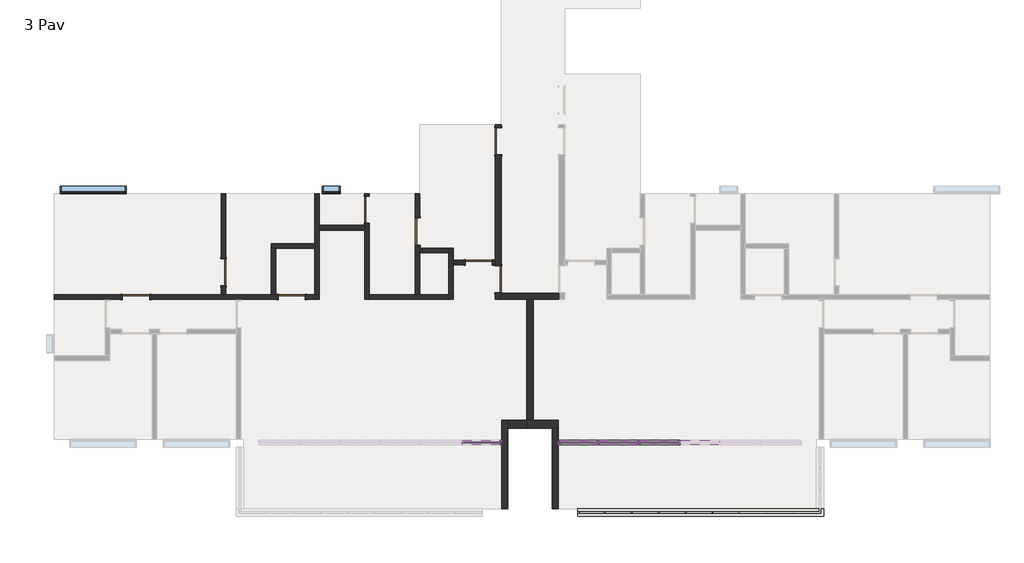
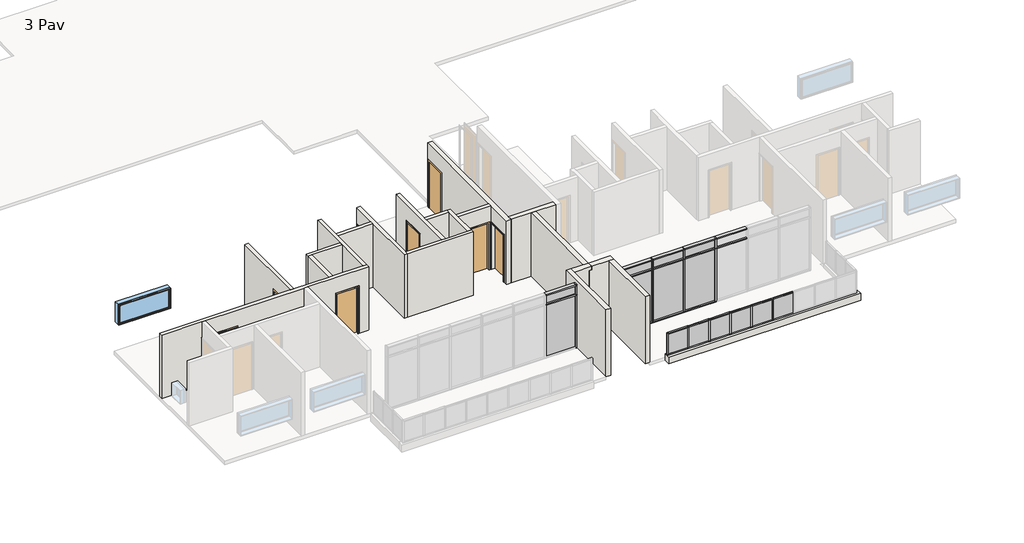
# One storey, part 2 of 6: 40 members, 20 walls, 14 plates, 8 doors, 2 windows.
"""IFC4 building model written with IfcOpenShell, lengths in millimetres."""

from ifc_helpers import new_model, si_unit, frame, origin, place, context, project, spatial, polyline, outline, extrude, faceted_brep, transform, mapped, element, save
from components import door_90_x_210_2c83007d, door_90_x_210_ee935524, door_90_x_210_565370b3, montante_retangular_50_mm_quadrado_4acded50, montante_retangular_50_mm_quadrado_237d7072, montante_retangular_50_mm_quadrado_84e40a56, montante_retangular_50_mm_quadrado_3d152aff, montante_retangular_50_x_150_mm_6217edde, montante_retangular_50_x_150_mm_a22249d7, montante_retangular_50_x_150_mm_6225e4e3, montante_retangular_50_x_150_mm_1ca2bba2, montante_retangular_50_x_150_mm_6abf4531, montante_retangular_50_x_150_mm_662c37b1, montante_retangular_50_x_150_mm_567eccab, montante_retangular_50_x_150_mm_0a8c3443, painel_do_sistema_57ceaf50, painel_do_sistema_ab0ed719, painel_do_sistema_1ecb5f42, painel_do_sistema_49db1829, painel_do_sistema_5ea5287b, painel_do_sistema_7730abee, window_0610_x_0610_mm_da1d4716, window_220_x_90_cea65aae

model = new_model("IFC4")

# Units and contexts
model_context = context("Model", 3, world=origin())
ifc_project = project(units=[si_unit("LENGTHUNIT", "METRE", prefix="MILLI")], contexts=[model_context])

# Site, building, storey
site = spatial("IfcSite", under=ifc_project)
building = spatial("IfcBuilding", under=site)
storey = spatial("IfcBuildingStorey", under=building, Name="3 Pav", Elevation=9000.0)

# Doors
placement = place(None, origin())
door_90_x_210_shape = door_90_x_210_2c83007d(model_context)
element("IfcDoor", 1, ObjectType="M_Descarga simples : 90 x 210", at=placement, inside=storey, context=model_context, shape_type="MappedRepresentation", body=[
    mapped(door_90_x_210_shape, transform((-2076.2265742, -2546.3385375, 9000.0), x_axis=(0.0, 1.0, 0.0), y_axis=(-1.0, 0.0, 0.0), z_axis=(0.0, 0.0, 1.0))),
])
element("IfcDoor", 2, ObjectType="M_Descarga simples : 90 x 210", at=placement, inside=storey, context=model_context, shape_type="MappedRepresentation", body=[
    mapped(door_90_x_210_shape, transform((-2076.2265742, -7125.9292512, 9000.0), x_axis=(0.0, -1.0, 0.0), y_axis=(1.0, 0.0, 0.0), z_axis=(0.0, 0.0, 1.0))),
])
door_90_x_210_2_shape = door_90_x_210_ee935524(model_context)
element("IfcDoor", 3, ObjectType="M_Descarga simples : 90 x 210", at=placement, inside=storey, context=model_context, shape_type="MappedRepresentation", body=[
    mapped(door_90_x_210_2_shape, transform((-2726.2265742, -6571.3385375, 9000.0), x_axis=(1.0, 0.0, 0.0), y_axis=(0.0, 1.0, 0.0), z_axis=(0.0, 0.0, 1.0))),
])
element("IfcDoor", 4, ObjectType="M_Descarga simples : 90 x 210", at=placement, inside=storey, context=model_context, shape_type="MappedRepresentation", body=[
    mapped(door_90_x_210_2_shape, transform((-4751.2265742, -5536.3385375, 9000.0), x_axis=(0.0, 1.0, 0.0), y_axis=(-1.0, 0.0, 0.0), z_axis=(0.0, 0.0, 1.0))),
])
element("IfcDoor", 5, ObjectType="M_Descarga simples : 90 x 210", at=placement, inside=storey, context=model_context, shape_type="MappedRepresentation", body=[
    mapped(door_90_x_210_2_shape, transform((-6441.2265742, -4811.3385375, 9000.0), x_axis=(0.0, 1.0, 0.0), y_axis=(-1.0, 0.0, 0.0), z_axis=(0.0, 0.0, 1.0))),
])
element("IfcDoor", 6, ObjectType="M_Descarga simples : 90 x 210", at=placement, inside=storey, context=model_context, shape_type="MappedRepresentation", body=[
    mapped(door_90_x_210_2_shape, transform((-11191.2265742, -6886.3385375, 9000.0), x_axis=(0.0, -1.0, 0.0), y_axis=(1.0, 0.0, 0.0), z_axis=(0.0, 0.0, 1.0))),
])
door_90_x_210_3_shape = door_90_x_210_565370b3(model_context)
element("IfcDoor", 7, ObjectType="M_Descarga simples : 90 x 210", at=placement, inside=storey, context=model_context, shape_type="MappedRepresentation", body=[
    mapped(door_90_x_210_3_shape, transform((-14096.2265742, -7711.3385375, 9000.0), x_axis=(-1.0, 0.0, 0.0), y_axis=(0.0, -1.0, 0.0), z_axis=(0.0, 0.0, 1.0))),
])
element("IfcDoor", 8, ObjectType="M_Descarga simples : 90 x 210", at=placement, inside=storey, context=model_context, shape_type="MappedRepresentation", body=[
    mapped(door_90_x_210_3_shape, transform((-8936.2265742, -7711.3385375, 9000.0), x_axis=(-1.0, 0.0, 0.0), y_axis=(0.0, -1.0, 0.0), z_axis=(0.0, 0.0, 1.0))),
])

# Members
montante_retangular_50_mm_quadrado_shape = montante_retangular_50_mm_quadrado_4acded50(model_context)
element("IfcMember", 9, ObjectType="Montante retangular : 50 mm Quadrado", at=placement, inside=storey, context=model_context, shape_type="MappedRepresentation", body=[
    mapped(montante_retangular_50_mm_quadrado_shape, transform((1428.7734258, -14856.3385375, 10150.0), x_axis=(0.0, 0.0, 1.0), y_axis=(0.0, -1.0, 0.0), z_axis=(1.0, 0.0, 0.0))),
])
montante_retangular_50_mm_quadrado_2_shape = montante_retangular_50_mm_quadrado_237d7072(model_context)
element("IfcMember", 10, ObjectType="Montante retangular : 50 mm Quadrado", at=placement, inside=storey, context=model_context, shape_type="MappedRepresentation", body=[
    mapped(montante_retangular_50_mm_quadrado_2_shape, transform((2323.7734258, -14856.3385375, 10150.0), x_axis=(0.0, 0.0, 1.0), y_axis=(0.0, -1.0, 0.0), z_axis=(1.0, 0.0, 0.0))),
])
element("IfcMember", 11, ObjectType="Montante retangular : 50 mm Quadrado", at=placement, inside=storey, context=model_context, shape_type="MappedRepresentation", body=[
    mapped(montante_retangular_50_mm_quadrado_2_shape, transform((3218.7734258, -14856.3385375, 10150.0), x_axis=(0.0, 0.0, 1.0), y_axis=(0.0, -1.0, 0.0), z_axis=(1.0, 0.0, 0.0))),
])
element("IfcMember", 12, ObjectType="Montante retangular : 50 mm Quadrado", at=placement, inside=storey, context=model_context, shape_type="MappedRepresentation", body=[
    mapped(montante_retangular_50_mm_quadrado_2_shape, transform((4113.7734258, -14856.3385375, 10150.0), x_axis=(0.0, 0.0, 1.0), y_axis=(0.0, -1.0, 0.0), z_axis=(1.0, 0.0, 0.0))),
])
element("IfcMember", 13, ObjectType="Montante retangular : 50 mm Quadrado", at=placement, inside=storey, context=model_context, shape_type="MappedRepresentation", body=[
    mapped(montante_retangular_50_mm_quadrado_2_shape, transform((5008.7734258, -14856.3385375, 10150.0), x_axis=(0.0, 0.0, 1.0), y_axis=(0.0, -1.0, 0.0), z_axis=(1.0, 0.0, 0.0))),
])
element("IfcMember", 14, ObjectType="Montante retangular : 50 mm Quadrado", at=placement, inside=storey, context=model_context, shape_type="MappedRepresentation", body=[
    mapped(montante_retangular_50_mm_quadrado_2_shape, transform((5903.7734258, -14856.3385375, 10150.0), x_axis=(0.0, 0.0, 1.0), y_axis=(0.0, -1.0, 0.0), z_axis=(1.0, 0.0, 0.0))),
])
element("IfcMember", 15, ObjectType="Montante retangular : 50 mm Quadrado", at=placement, inside=storey, context=model_context, shape_type="MappedRepresentation", body=[
    mapped(montante_retangular_50_mm_quadrado_shape, transform((608.7734258, -14856.3385375, 9150.0), x_axis=(0.0, 0.0, -1.0), y_axis=(0.0, -1.0, 0.0), z_axis=(-1.0, 0.0, 0.0))),
])
element("IfcMember", 16, ObjectType="Montante retangular : 50 mm Quadrado", at=placement, inside=storey, context=model_context, shape_type="MappedRepresentation", body=[
    mapped(montante_retangular_50_mm_quadrado_2_shape, transform((1478.7734258, -14856.3385375, 9150.0), x_axis=(0.0, 0.0, -1.0), y_axis=(0.0, -1.0, 0.0), z_axis=(-1.0, 0.0, 0.0))),
])
element("IfcMember", 17, ObjectType="Montante retangular : 50 mm Quadrado", at=placement, inside=storey, context=model_context, shape_type="MappedRepresentation", body=[
    mapped(montante_retangular_50_mm_quadrado_2_shape, transform((2373.7734258, -14856.3385375, 9150.0), x_axis=(0.0, 0.0, -1.0), y_axis=(0.0, -1.0, 0.0), z_axis=(-1.0, 0.0, 0.0))),
])
element("IfcMember", 18, ObjectType="Montante retangular : 50 mm Quadrado", at=placement, inside=storey, context=model_context, shape_type="MappedRepresentation", body=[
    mapped(montante_retangular_50_mm_quadrado_2_shape, transform((3268.7734258, -14856.3385375, 9150.0), x_axis=(0.0, 0.0, -1.0), y_axis=(0.0, -1.0, 0.0), z_axis=(-1.0, 0.0, 0.0))),
])
element("IfcMember", 19, ObjectType="Montante retangular : 50 mm Quadrado", at=placement, inside=storey, context=model_context, shape_type="MappedRepresentation", body=[
    mapped(montante_retangular_50_mm_quadrado_2_shape, transform((4163.7734258, -14856.3385375, 9150.0), x_axis=(0.0, 0.0, -1.0), y_axis=(0.0, -1.0, 0.0), z_axis=(-1.0, 0.0, 0.0))),
])
element("IfcMember", 20, ObjectType="Montante retangular : 50 mm Quadrado", at=placement, inside=storey, context=model_context, shape_type="MappedRepresentation", body=[
    mapped(montante_retangular_50_mm_quadrado_2_shape, transform((5058.7734258, -14856.3385375, 9150.0), x_axis=(0.0, 0.0, -1.0), y_axis=(0.0, -1.0, 0.0), z_axis=(-1.0, 0.0, 0.0))),
])
montante_retangular_50_mm_quadrado_3_shape = montante_retangular_50_mm_quadrado_84e40a56(model_context)
element("IfcMember", 21, ObjectType="Montante retangular : 50 mm Quadrado", at=placement, inside=storey, context=model_context, shape_type="MappedRepresentation", body=[
    mapped(montante_retangular_50_mm_quadrado_3_shape, transform((1453.7734258, -14856.3385375, 9150.0), x_axis=(1.0, 0.0, 0.0), y_axis=(0.0, -1.0, 0.0), z_axis=(0.0, 0.0, -1.0))),
])
element("IfcMember", 22, ObjectType="Montante retangular : 50 mm Quadrado", at=placement, inside=storey, context=model_context, shape_type="MappedRepresentation", body=[
    mapped(montante_retangular_50_mm_quadrado_3_shape, transform((2348.7734258, -14856.3385375, 9150.0), x_axis=(1.0, 0.0, 0.0), y_axis=(0.0, -1.0, 0.0), z_axis=(0.0, 0.0, -1.0))),
])
element("IfcMember", 23, ObjectType="Montante retangular : 50 mm Quadrado", at=placement, inside=storey, context=model_context, shape_type="MappedRepresentation", body=[
    mapped(montante_retangular_50_mm_quadrado_3_shape, transform((3243.7734258, -14856.3385375, 9150.0), x_axis=(1.0, 0.0, 0.0), y_axis=(0.0, -1.0, 0.0), z_axis=(0.0, 0.0, -1.0))),
])
element("IfcMember", 24, ObjectType="Montante retangular : 50 mm Quadrado", at=placement, inside=storey, context=model_context, shape_type="MappedRepresentation", body=[
    mapped(montante_retangular_50_mm_quadrado_3_shape, transform((4138.7734258, -14856.3385375, 9150.0), x_axis=(1.0, 0.0, 0.0), y_axis=(0.0, -1.0, 0.0), z_axis=(0.0, 0.0, -1.0))),
])
montante_retangular_50_mm_quadrado_4_shape = montante_retangular_50_mm_quadrado_3d152aff(model_context)
element("IfcMember", 25, ObjectType="Montante retangular : 50 mm Quadrado", at=placement, inside=storey, context=model_context, shape_type="MappedRepresentation", body=[
    mapped(montante_retangular_50_mm_quadrado_4_shape, transform((558.7734258, -14856.3385375, 10150.0), x_axis=(-1.0, 0.0, 0.0), y_axis=(0.0, -1.0, 0.0), z_axis=(0.0, 0.0, 1.0))),
])
montante_retangular_50_x_150_mm_shape = montante_retangular_50_x_150_mm_6217edde(model_context)
element("IfcMember", 26, ObjectType="Montante retangular : 50 x 150 mm", at=placement, inside=storey, context=model_context, shape_type="MappedRepresentation", body=[
    mapped(montante_retangular_50_x_150_mm_shape, transform((-2011.2265742, -12536.3385375, 11850.0), x_axis=(0.0, 0.0, 1.0), y_axis=(0.0, -1.0, 0.0), z_axis=(1.0, 0.0, 0.0))),
])
element("IfcMember", 27, ObjectType="Montante retangular : 50 x 150 mm", at=placement, inside=storey, context=model_context, shape_type="MappedRepresentation", body=[
    mapped(montante_retangular_50_x_150_mm_shape, transform((-41.2265742, -12536.3385375, 11850.0), x_axis=(0.0, 0.0, 1.0), y_axis=(0.0, 1.0, 0.0), z_axis=(-1.0, 0.0, 0.0))),
])
montante_retangular_50_x_150_mm_2_shape = montante_retangular_50_x_150_mm_a22249d7(model_context)
element("IfcMember", 28, ObjectType="Montante retangular : 50 x 150 mm", at=placement, inside=storey, context=model_context, shape_type="MappedRepresentation", body=[
    mapped(montante_retangular_50_x_150_mm_2_shape, transform((3966.2734258, -12536.3385375, 11850.0), x_axis=(0.0, 0.0, 1.0), y_axis=(0.0, 1.0, 0.0), z_axis=(-1.0, 0.0, 0.0))),
])
element("IfcMember", 29, ObjectType="Montante retangular : 50 x 150 mm", at=placement, inside=storey, context=model_context, shape_type="MappedRepresentation", body=[
    mapped(montante_retangular_50_x_150_mm_2_shape, transform((2622.1067592, -12536.3385375, 11850.0), x_axis=(0.0, 0.0, 1.0), y_axis=(0.0, 1.0, 0.0), z_axis=(-1.0, 0.0, 0.0))),
])
element("IfcMember", 30, ObjectType="Montante retangular : 50 x 150 mm", at=placement, inside=storey, context=model_context, shape_type="MappedRepresentation", body=[
    mapped(montante_retangular_50_x_150_mm_2_shape, transform((1277.9400925, -12536.3385375, 11850.0), x_axis=(0.0, 0.0, 1.0), y_axis=(0.0, 1.0, 0.0), z_axis=(-1.0, 0.0, 0.0))),
])
element("IfcMember", 31, ObjectType="Montante retangular : 50 x 150 mm", at=placement, inside=storey, context=model_context, shape_type="MappedRepresentation", body=[
    mapped(montante_retangular_50_x_150_mm_shape, transform((1227.9400925, -12536.3385375, 9000.0), x_axis=(0.0, 0.0, -1.0), y_axis=(0.0, 1.0, 0.0), z_axis=(1.0, 0.0, 0.0))),
])
element("IfcMember", 32, ObjectType="Montante retangular : 50 x 150 mm", at=placement, inside=storey, context=model_context, shape_type="MappedRepresentation", body=[
    mapped(montante_retangular_50_x_150_mm_2_shape, transform((3916.2734258, -12536.3385375, 9000.0), x_axis=(0.0, 0.0, -1.0), y_axis=(0.0, 1.0, 0.0), z_axis=(1.0, 0.0, 0.0))),
])
element("IfcMember", 33, ObjectType="Montante retangular : 50 x 150 mm", at=placement, inside=storey, context=model_context, shape_type="MappedRepresentation", body=[
    mapped(montante_retangular_50_x_150_mm_2_shape, transform((2572.1067592, -12536.3385375, 9000.0), x_axis=(0.0, 0.0, -1.0), y_axis=(0.0, 1.0, 0.0), z_axis=(1.0, 0.0, 0.0))),
])
montante_retangular_50_x_150_mm_3_shape = montante_retangular_50_x_150_mm_6225e4e3(model_context)
element("IfcMember", 34, ObjectType="Montante retangular : 50 x 150 mm", at=placement, inside=storey, context=model_context, shape_type="MappedRepresentation", body=[
    mapped(montante_retangular_50_x_150_mm_3_shape, transform((3941.2734258, -12536.3385375, 9000.0), x_axis=(-1.0, 0.0, 0.0), y_axis=(0.0, 1.0, 0.0), z_axis=(0.0, 0.0, -1.0))),
])
element("IfcMember", 35, ObjectType="Montante retangular : 50 x 150 mm", at=placement, inside=storey, context=model_context, shape_type="MappedRepresentation", body=[
    mapped(montante_retangular_50_x_150_mm_3_shape, transform((2597.1067592, -12536.3385375, 9000.0), x_axis=(-1.0, 0.0, 0.0), y_axis=(0.0, 1.0, 0.0), z_axis=(0.0, 0.0, -1.0))),
])
element("IfcMember", 36, ObjectType="Montante retangular : 50 x 150 mm", at=placement, inside=storey, context=model_context, shape_type="MappedRepresentation", body=[
    mapped(montante_retangular_50_x_150_mm_3_shape, transform((1252.9400925, -12536.3385375, 9000.0), x_axis=(-1.0, 0.0, 0.0), y_axis=(0.0, 1.0, 0.0), z_axis=(0.0, 0.0, -1.0))),
])
montante_retangular_50_x_150_mm_4_shape = montante_retangular_50_x_150_mm_1ca2bba2(model_context)
element("IfcMember", 37, ObjectType="Montante retangular : 50 x 150 mm", at=placement, inside=storey, context=model_context, shape_type="MappedRepresentation", body=[
    mapped(montante_retangular_50_x_150_mm_4_shape, transform((-41.2265742, -12536.3385375, 11400.0), x_axis=(0.0, 0.0, 1.0), y_axis=(0.0, 1.0, 0.0), z_axis=(-1.0, 0.0, 0.0))),
])
montante_retangular_50_x_150_mm_5_shape = montante_retangular_50_x_150_mm_6abf4531(model_context)
element("IfcMember", 38, ObjectType="Montante retangular : 50 x 150 mm", at=placement, inside=storey, context=model_context, shape_type="MappedRepresentation", body=[
    mapped(montante_retangular_50_x_150_mm_5_shape, transform((3966.2734258, -12536.3385375, 11400.0), x_axis=(0.0, 0.0, 1.0), y_axis=(0.0, 1.0, 0.0), z_axis=(-1.0, 0.0, 0.0))),
])
element("IfcMember", 39, ObjectType="Montante retangular : 50 x 150 mm", at=placement, inside=storey, context=model_context, shape_type="MappedRepresentation", body=[
    mapped(montante_retangular_50_x_150_mm_5_shape, transform((2622.1067592, -12536.3385375, 11400.0), x_axis=(0.0, 0.0, 1.0), y_axis=(0.0, 1.0, 0.0), z_axis=(-1.0, 0.0, 0.0))),
])
element("IfcMember", 40, ObjectType="Montante retangular : 50 x 150 mm", at=placement, inside=storey, context=model_context, shape_type="MappedRepresentation", body=[
    mapped(montante_retangular_50_x_150_mm_5_shape, transform((1277.9400925, -12536.3385375, 11400.0), x_axis=(0.0, 0.0, 1.0), y_axis=(0.0, 1.0, 0.0), z_axis=(-1.0, 0.0, 0.0))),
])
montante_retangular_50_x_150_mm_6_shape = montante_retangular_50_x_150_mm_662c37b1(model_context)
element("IfcMember", 41, ObjectType="Montante retangular : 50 x 150 mm", at=placement, inside=storey, context=model_context, shape_type="MappedRepresentation", body=[
    mapped(montante_retangular_50_x_150_mm_6_shape, transform((-91.2265742, -12536.3385375, 9000.0), x_axis=(-1.0, 0.0, 0.0), y_axis=(0.0, 1.0, 0.0), z_axis=(0.0, 0.0, -1.0))),
])
montante_retangular_50_x_150_mm_7_shape = montante_retangular_50_x_150_mm_567eccab(model_context)
element("IfcMember", 42, ObjectType="Montante retangular : 50 x 150 mm", at=placement, inside=storey, context=model_context, shape_type="MappedRepresentation", body=[
    mapped(montante_retangular_50_x_150_mm_7_shape, transform((3941.2734258, -12536.3385375, 11400.0), x_axis=(-1.0, 0.0, 0.0), y_axis=(0.0, 1.0, 0.0), z_axis=(0.0, 0.0, -1.0))),
])
element("IfcMember", 43, ObjectType="Montante retangular : 50 x 150 mm", at=placement, inside=storey, context=model_context, shape_type="MappedRepresentation", body=[
    mapped(montante_retangular_50_x_150_mm_7_shape, transform((2597.1067592, -12536.3385375, 11400.0), x_axis=(-1.0, 0.0, 0.0), y_axis=(0.0, 1.0, 0.0), z_axis=(0.0, 0.0, -1.0))),
])
element("IfcMember", 44, ObjectType="Montante retangular : 50 x 150 mm", at=placement, inside=storey, context=model_context, shape_type="MappedRepresentation", body=[
    mapped(montante_retangular_50_x_150_mm_7_shape, transform((1252.9400925, -12536.3385375, 11400.0), x_axis=(-1.0, 0.0, 0.0), y_axis=(0.0, 1.0, 0.0), z_axis=(0.0, 0.0, -1.0))),
])
montante_retangular_50_x_150_mm_8_shape = montante_retangular_50_x_150_mm_0a8c3443(model_context)
element("IfcMember", 45, ObjectType="Montante retangular : 50 x 150 mm", at=placement, inside=storey, context=model_context, shape_type="MappedRepresentation", body=[
    mapped(montante_retangular_50_x_150_mm_8_shape, transform((-91.2265742, -12536.3385375, 11400.0), x_axis=(-1.0, 0.0, 0.0), y_axis=(0.0, 1.0, 0.0), z_axis=(0.0, 0.0, -1.0))),
])
element("IfcMember", 46, ObjectType="Montante retangular : 50 x 150 mm", at=placement, inside=storey, context=model_context, shape_type="MappedRepresentation", body=[
    mapped(montante_retangular_50_x_150_mm_4_shape, transform((-2011.2265742, -12536.3385375, 11400.0), x_axis=(0.0, 0.0, 1.0), y_axis=(0.0, -1.0, 0.0), z_axis=(1.0, 0.0, 0.0))),
])
element("IfcMember", 47, ObjectType="Montante retangular : 50 x 150 mm", at=placement, inside=storey, context=model_context, shape_type="MappedRepresentation", body=[
    mapped(montante_retangular_50_x_150_mm_6_shape, transform((-1961.2265742, -12536.3385375, 9000.0), x_axis=(1.0, 0.0, 0.0), y_axis=(0.0, -1.0, 0.0), z_axis=(0.0, 0.0, -1.0))),
])
element("IfcMember", 48, ObjectType="Montante retangular : 50 x 150 mm", at=placement, inside=storey, context=model_context, shape_type="MappedRepresentation", body=[
    mapped(montante_retangular_50_x_150_mm_8_shape, transform((-1961.2265742, -12536.3385375, 11400.0), x_axis=(1.0, 0.0, 0.0), y_axis=(0.0, -1.0, 0.0), z_axis=(0.0, 0.0, -1.0))),
])

# Plates
painel_do_sistema_shape = painel_do_sistema_57ceaf50(model_context)
element("IfcPlate", 49, ObjectType="Painel do sistema : Envidraçado", at=placement, inside=storey, context=model_context, shape_type="MappedRepresentation", body=[
    mapped(painel_do_sistema_shape, transform((1018.7734258, -14856.3385375, 9200.0), x_axis=(1.0, 0.0, 0.0), y_axis=(0.0, 1.0, 0.0), z_axis=(0.0, 0.0, 1.0))),
])
painel_do_sistema_2_shape = painel_do_sistema_ab0ed719(model_context)
element("IfcPlate", 50, ObjectType="Painel do sistema : Envidraçado", at=placement, inside=storey, context=model_context, shape_type="MappedRepresentation", body=[
    mapped(painel_do_sistema_2_shape, transform((1901.2734258, -14856.3385375, 9200.0), x_axis=(1.0, 0.0, 0.0), y_axis=(0.0, 1.0, 0.0), z_axis=(0.0, 0.0, 1.0))),
])
element("IfcPlate", 51, ObjectType="Painel do sistema : Envidraçado", at=placement, inside=storey, context=model_context, shape_type="MappedRepresentation", body=[
    mapped(painel_do_sistema_2_shape, transform((2796.2734258, -14856.3385375, 9200.0), x_axis=(1.0, 0.0, 0.0), y_axis=(0.0, 1.0, 0.0), z_axis=(0.0, 0.0, 1.0))),
])
element("IfcPlate", 52, ObjectType="Painel do sistema : Envidraçado", at=placement, inside=storey, context=model_context, shape_type="MappedRepresentation", body=[
    mapped(painel_do_sistema_2_shape, transform((3691.2734258, -14856.3385375, 9200.0), x_axis=(1.0, 0.0, 0.0), y_axis=(0.0, 1.0, 0.0), z_axis=(0.0, 0.0, 1.0))),
])
element("IfcPlate", 53, ObjectType="Painel do sistema : Envidraçado", at=placement, inside=storey, context=model_context, shape_type="MappedRepresentation", body=[
    mapped(painel_do_sistema_2_shape, transform((4586.2734258, -14856.3385375, 9200.0), x_axis=(1.0, 0.0, 0.0), y_axis=(0.0, 1.0, 0.0), z_axis=(0.0, 0.0, 1.0))),
])
element("IfcPlate", 54, ObjectType="Painel do sistema : Envidraçado", at=placement, inside=storey, context=model_context, shape_type="MappedRepresentation", body=[
    mapped(painel_do_sistema_2_shape, transform((5481.2734258, -14856.3385375, 9200.0), x_axis=(1.0, 0.0, 0.0), y_axis=(0.0, 1.0, 0.0), z_axis=(0.0, 0.0, 1.0))),
])
painel_do_sistema_3_shape = painel_do_sistema_1ecb5f42(model_context)
element("IfcPlate", 55, ObjectType="Painel do sistema : Envidraçado", at=placement, inside=storey, context=model_context, shape_type="MappedRepresentation", body=[
    mapped(painel_do_sistema_3_shape, transform((593.3567592, -12536.3385375, 9050.0), x_axis=(-1.0, 0.0, 0.0), y_axis=(0.0, -1.0, 0.0), z_axis=(0.0, 0.0, 1.0))),
])
painel_do_sistema_4_shape = painel_do_sistema_49db1829(model_context)
element("IfcPlate", 56, ObjectType="Painel do sistema : Envidraçado", at=placement, inside=storey, context=model_context, shape_type="MappedRepresentation", body=[
    mapped(painel_do_sistema_4_shape, transform((3269.1900925, -12536.3385375, 9050.0), x_axis=(-1.0, 0.0, 0.0), y_axis=(0.0, -1.0, 0.0), z_axis=(0.0, 0.0, 1.0))),
])
element("IfcPlate", 57, ObjectType="Painel do sistema : Envidraçado", at=placement, inside=storey, context=model_context, shape_type="MappedRepresentation", body=[
    mapped(painel_do_sistema_4_shape, transform((1925.0234258, -12536.3385375, 9050.0), x_axis=(-1.0, 0.0, 0.0), y_axis=(0.0, -1.0, 0.0), z_axis=(0.0, 0.0, 1.0))),
])
painel_do_sistema_5_shape = painel_do_sistema_5ea5287b(model_context)
element("IfcPlate", 58, ObjectType="Painel do sistema : Envidraçado", at=placement, inside=storey, context=model_context, shape_type="MappedRepresentation", body=[
    mapped(painel_do_sistema_5_shape, transform((593.3567592, -12536.3385375, 11425.0), x_axis=(-1.0, 0.0, 0.0), y_axis=(0.0, -1.0, 0.0), z_axis=(0.0, 0.0, 1.0))),
])
painel_do_sistema_6_shape = painel_do_sistema_7730abee(model_context)
element("IfcPlate", 59, ObjectType="Painel do sistema : Envidraçado", at=placement, inside=storey, context=model_context, shape_type="MappedRepresentation", body=[
    mapped(painel_do_sistema_6_shape, transform((3269.1900925, -12536.3385375, 11425.0), x_axis=(-1.0, 0.0, 0.0), y_axis=(0.0, -1.0, 0.0), z_axis=(0.0, 0.0, 1.0))),
])
element("IfcPlate", 60, ObjectType="Painel do sistema : Envidraçado", at=placement, inside=storey, context=model_context, shape_type="MappedRepresentation", body=[
    mapped(painel_do_sistema_6_shape, transform((1925.0234258, -12536.3385375, 11425.0), x_axis=(-1.0, 0.0, 0.0), y_axis=(0.0, -1.0, 0.0), z_axis=(0.0, 0.0, 1.0))),
])
element("IfcPlate", 61, ObjectType="Painel do sistema : Envidraçado", at=placement, inside=storey, context=model_context, shape_type="MappedRepresentation", body=[
    mapped(painel_do_sistema_3_shape, transform((-2645.8099075, -12536.3385375, 9050.0), x_axis=(1.0, 0.0, 0.0), y_axis=(0.0, 1.0, 0.0), z_axis=(0.0, 0.0, 1.0))),
])
element("IfcPlate", 62, ObjectType="Painel do sistema : Envidraçado", at=placement, inside=storey, context=model_context, shape_type="MappedRepresentation", body=[
    mapped(painel_do_sistema_5_shape, transform((-2645.8099075, -12536.3385375, 11425.0), x_axis=(1.0, 0.0, 0.0), y_axis=(0.0, 1.0, 0.0), z_axis=(0.0, 0.0, 1.0))),
])

# Walls
element("IfcWall", 63, ObjectType="Exeterna 25", at=placement, inside=storey, context=model_context, shape_type="Brep", body=[
    faceted_brep([(558.7734258, -14981.3385375, 8850.0), (8713.7734258, -14981.3385375, 8850.0), (8713.7734258, -14981.3385375, 9150.0), (558.7734258, -14981.3385375, 9150.0), (558.7734258, -14731.3385375, 8850.0), (558.7734258, -14731.3385375, 9150.0), (8463.7734258, -14731.3385375, 9150.0), (8713.7734258, -14731.3385375, 9150.0), (8713.7734258, -14731.3385375, 8850.0), (8463.7734258, -14731.3385375, 8850.0)], [[[0, 1, 2, 3]], [[4, 5, 6, 7, 8, 9]], [[1, 0, 4, 9, 8]], [[3, 2, 7, 6, 5]], [[0, 3, 5, 4]], [[2, 1, 8, 7]]]),
])
element("IfcWall", 64, ObjectType="Exeterna 25", at=placement, inside=storey, context=model_context, shape_type="Brep", body=[
    faceted_brep([(-1126.2265742, -12056.3385375, 9000.0), (-291.2265742, -12056.3385375, 9000.0), (-91.2265742, -12056.3385375, 9000.0), (-91.2265742, -12056.3385375, 12000.0), (-291.2265742, -12056.3385375, 12000.0), (-1026.2265742, -12056.3385375, 12000.0), (-1026.2265742, -12056.3385375, 11850.0), (-1126.2265742, -12056.3385375, 11850.0), (-1126.2265742, -11806.3385375, 9000.0), (-1126.2265742, -11806.3385375, 11850.0), (-1026.2265742, -11806.3385375, 11850.0), (-1026.2265742, -11806.3385375, 12000.0), (-91.2265742, -11806.3385375, 12000.0), (-91.2265742, -11806.3385375, 9000.0), (-926.2265742, -11806.3385375, 9000.0)], [[[0, 1, 2, 3, 4, 5, 6, 7]], [[8, 9, 10, 11, 12, 13, 14]], [[2, 1, 0, 8, 14, 13]], [[5, 4, 3, 12, 11]], [[3, 2, 13, 12]], [[6, 5, 11, 10]], [[6, 10, 9, 7]], [[0, 7, 9, 8]]]),
])
element("IfcWall", 65, ObjectType="Exeterna 25", at=placement, inside=storey, context=model_context, shape_type="SweptSolid", body=[
    extrude(outline(polyline([(9000.0, -1126.2265742), (11850.0, -1126.2265742), (11850.0, -1026.2265742), (12000.0, -1026.2265742), (12000.0, -1761.2265742), (9000.0, -1761.2265742), (9000.0, -1126.2265742)])), frame((0.0, -12056.3385375, 0.0), z_axis=(0.0, 1.0, 0.0), x_axis=(0.0, 0.0, 1.0)), (0.0, 0.0, 1.0), 250.0),
])
element("IfcWall", 66, ObjectType="Interna 15", at=placement, inside=storey, context=model_context, shape_type="Brep", body=[
    faceted_brep([(-13646.2265742, -7786.3385375, 9000.0), (-10766.2265742, -7786.3385375, 9000.0), (-10616.2265742, -7786.3385375, 9000.0), (-9386.2265742, -7786.3385375, 9000.0), (-9386.2265742, -7786.3385375, 11100.0), (-8486.2265742, -7786.3385375, 11100.0), (-8486.2265742, -7786.3385375, 9000.0), (-8016.2265742, -7786.3385375, 9000.0), (-8016.2265742, -7786.3385375, 11850.0), (-10616.2265742, -7786.3385375, 11850.0), (-10766.2265742, -7786.3385375, 11850.0), (-14966.2265742, -7786.3385375, 11850.0), (-15116.2265742, -7786.3385375, 11850.0), (-16816.2265742, -7786.3385375, 11850.0), (-16816.2265742, -7786.3385375, 9000.0), (-15116.2265742, -7786.3385375, 9000.0), (-14966.2265742, -7786.3385375, 9000.0), (-14546.2265742, -7786.3385375, 9000.0), (-14546.2265742, -7786.3385375, 11100.0), (-13646.2265742, -7786.3385375, 11100.0), (-9386.2265742, -7636.3385375, 11100.0), (-9386.2265742, -7636.3385375, 9000.0), (-9466.2265742, -7636.3385375, 9000.0), (-9616.2265742, -7636.3385375, 9000.0), (-11116.2265742, -7636.3385375, 9000.0), (-11266.2265742, -7636.3385375, 9000.0), (-13646.2265742, -7636.3385375, 9000.0), (-13646.2265742, -7636.3385375, 11100.0), (-14546.2265742, -7636.3385375, 11100.0), (-14546.2265742, -7636.3385375, 9000.0), (-16816.2265742, -7636.3385375, 9000.0), (-16816.2265742, -7636.3385375, 11850.0), (-11266.2265742, -7636.3385375, 11850.0), (-11116.2265742, -7636.3385375, 11850.0), (-9616.2265742, -7636.3385375, 11850.0), (-9466.2265742, -7636.3385375, 11850.0), (-8166.2265742, -7636.3385375, 11850.0), (-8016.2265742, -7636.3385375, 11850.0), (-8016.2265742, -7636.3385375, 9000.0), (-8166.2265742, -7636.3385375, 9000.0), (-8486.2265742, -7636.3385375, 9000.0), (-8486.2265742, -7636.3385375, 11100.0)], [[[0, 1, 2, 3, 4, 5, 6, 7, 8, 9, 10, 11, 12, 13, 14, 15, 16, 17, 18, 19]], [[20, 21, 22, 23, 24, 25, 26, 27, 28, 29, 30, 31, 32, 33, 34, 35, 36, 37, 38, 39, 40, 41]], [[30, 29, 17, 16, 15, 14]], [[40, 39, 38, 7, 6]], [[26, 25, 24, 23, 22, 21, 3, 2, 1, 0]], [[13, 12, 11, 10, 9, 8, 37, 36, 35, 34, 33, 32, 31]], [[8, 7, 38, 37]], [[18, 17, 29, 28]], [[19, 18, 28, 27]], [[0, 19, 27, 26]], [[4, 3, 21, 20]], [[5, 4, 20, 41]], [[6, 5, 41, 40]], [[14, 13, 31, 30]]]),
])
element("IfcWall", 67, ObjectType="Interna 15", at=placement, inside=storey, context=model_context, shape_type="Brep", body=[
    faceted_brep([(-8016.2265742, -7636.3385375, 9000.0), (-8016.2265742, -5486.3385375, 9000.0), (-8016.2265742, -5336.3385375, 9000.0), (-8016.2265742, -4286.3385375, 9000.0), (-8016.2265742, -4286.3385375, 11850.0), (-8016.2265742, -5336.3385375, 11850.0), (-8016.2265742, -5486.3385375, 11850.0), (-8016.2265742, -7636.3385375, 11850.0), (-8166.2265742, -7636.3385375, 9000.0), (-8166.2265742, -7636.3385375, 11850.0), (-8166.2265742, -6086.3385375, 11850.0), (-8166.2265742, -5936.3385375, 11850.0), (-8166.2265742, -4286.3385375, 11850.0), (-8166.2265742, -4286.3385375, 9000.0), (-8166.2265742, -5936.3385375, 9000.0), (-8166.2265742, -6086.3385375, 9000.0)], [[[0, 1, 2, 3, 4, 5, 6, 7]], [[8, 9, 10, 11, 12, 13, 14, 15]], [[3, 2, 1, 0, 8, 15, 14, 13]], [[7, 6, 5, 4, 12, 11, 10, 9]], [[0, 7, 9, 8]], [[4, 3, 13, 12]]]),
])
element("IfcWall", 68, ObjectType="Interna 15", at=placement, inside=storey, context=model_context, shape_type="Brep", body=[
    faceted_brep([(-8166.2265742, -5936.3385375, 9000.0), (-9616.2265742, -5936.3385375, 9000.0), (-9616.2265742, -5936.3385375, 11850.0), (-8166.2265742, -5936.3385375, 11850.0), (-8166.2265742, -6086.3385375, 9000.0), (-8166.2265742, -6086.3385375, 11850.0), (-9466.2265742, -6086.3385375, 11850.0), (-9616.2265742, -6086.3385375, 11850.0), (-9616.2265742, -6086.3385375, 9000.0), (-9466.2265742, -6086.3385375, 9000.0)], [[[0, 1, 2, 3]], [[4, 5, 6, 7, 8, 9]], [[1, 0, 4, 9, 8]], [[3, 2, 7, 6, 5]], [[0, 3, 5, 4]], [[2, 1, 8, 7]]]),
])
element("IfcWall", 69, ObjectType="Interna 15", at=placement, inside=storey, context=model_context, shape_type="SweptSolid", body=[
    extrude(outline(polyline([(-9616.2265742, -7636.3385375), (-9616.2265742, -6086.3385375), (-9466.2265742, -6086.3385375), (-9466.2265742, -7636.3385375), (-9616.2265742, -7636.3385375)])), frame((0.0, 0.0, 9000.0), z_axis=(0.0, 0.0, 1.0), x_axis=(1.0, 0.0, 0.0)), (0.0, 0.0, 1.0), 2850.0),
])
element("IfcWall", 70, ObjectType="Interna 15", at=placement, inside=storey, context=model_context, shape_type="SweptSolid", body=[
    extrude(outline(polyline([(-7336.3385375, 11100.0), (-7336.3385375, 9000.0), (-7636.3385375, 9000.0), (-7636.3385375, 11850.0), (-4286.3385375, 11850.0), (-4286.3385375, 9000.0), (-6436.3385375, 9000.0), (-6436.3385375, 11100.0), (-7336.3385375, 11100.0)])), frame((-11266.2265742, 0.0, 0.0), z_axis=(1.0, 0.0, 0.0), x_axis=(0.0, 1.0, 0.0)), (0.0, 0.0, 1.0), 150.0),
])
element("IfcWall", 71, ObjectType="Interna 15", at=placement, inside=storey, context=model_context, shape_type="SweptSolid", body=[
    extrude(outline(polyline([(-6516.2265742, -5486.3385375), (-8016.2265742, -5486.3385375), (-8016.2265742, -5336.3385375), (-6516.2265742, -5336.3385375), (-6516.2265742, -5486.3385375)])), frame((0.0, 0.0, 9000.0), z_axis=(0.0, 0.0, 1.0), x_axis=(1.0, 0.0, 0.0)), (0.0, 0.0, 1.0), 2850.0),
])
element("IfcWall", 72, ObjectType="Interna 15", at=placement, inside=storey, context=model_context, shape_type="Brep", body=[
    faceted_brep([(-6516.2265742, -4286.3385375, 9000.0), (-6516.2265742, -4361.3385375, 9000.0), (-6516.2265742, -4361.3385375, 11100.0), (-6516.2265742, -5261.3385375, 11100.0), (-6516.2265742, -5261.3385375, 9000.0), (-6516.2265742, -5336.3385375, 9000.0), (-6516.2265742, -5486.3385375, 9000.0), (-6516.2265742, -7786.3385375, 9000.0), (-6516.2265742, -7786.3385375, 11850.0), (-6516.2265742, -5486.3385375, 11850.0), (-6516.2265742, -5336.3385375, 11850.0), (-6516.2265742, -4286.3385375, 11850.0), (-6366.2265742, -4361.3385375, 11100.0), (-6366.2265742, -4361.3385375, 9000.0), (-6366.2265742, -4286.3385375, 9000.0), (-6366.2265742, -4286.3385375, 11850.0), (-6366.2265742, -7636.3385375, 11850.0), (-6366.2265742, -7786.3385375, 11850.0), (-6366.2265742, -7786.3385375, 9000.0), (-6366.2265742, -7636.3385375, 9000.0), (-6366.2265742, -5261.3385375, 9000.0), (-6366.2265742, -5261.3385375, 11100.0)], [[[0, 1, 2, 3, 4, 5, 6, 7, 8, 9, 10, 11]], [[12, 13, 14, 15, 16, 17, 18, 19, 20, 21]], [[14, 13, 1, 0]], [[20, 19, 18, 7, 6, 5, 4]], [[11, 10, 9, 8, 17, 16, 15]], [[8, 7, 18, 17]], [[2, 1, 13, 12]], [[3, 2, 12, 21]], [[4, 3, 21, 20]], [[0, 11, 15, 14]]]),
])
element("IfcWall", 73, ObjectType="Interna 15", at=placement, inside=storey, context=model_context, shape_type="Brep", body=[
    faceted_brep([(-6366.2265742, -7786.3385375, 9000.0), (-3576.2265742, -7786.3385375, 9000.0), (-3576.2265742, -7786.3385375, 11850.0), (-6366.2265742, -7786.3385375, 11850.0), (-6366.2265742, -7636.3385375, 9000.0), (-6366.2265742, -7636.3385375, 11850.0), (-4826.2265742, -7636.3385375, 11850.0), (-4676.2265742, -7636.3385375, 11850.0), (-3726.2265742, -7636.3385375, 11850.0), (-3576.2265742, -7636.3385375, 11850.0), (-3576.2265742, -7636.3385375, 9000.0), (-3726.2265742, -7636.3385375, 9000.0), (-4676.2265742, -7636.3385375, 9000.0), (-4826.2265742, -7636.3385375, 9000.0)], [[[0, 1, 2, 3]], [[4, 5, 6, 7, 8, 9, 10, 11, 12, 13]], [[1, 0, 4, 13, 12, 11, 10]], [[3, 2, 9, 8, 7, 6, 5]], [[0, 3, 5, 4]], [[2, 1, 10, 9]]]),
])
element("IfcWall", 74, ObjectType="Interna 15", at=placement, inside=storey, context=model_context, shape_type="Brep", body=[
    faceted_brep([(-4676.2265742, -5086.3385375, 11100.0), (-4676.2265742, -5086.3385375, 9000.0), (-4676.2265742, -4286.3385375, 9000.0), (-4676.2265742, -4286.3385375, 11850.0), (-4676.2265742, -6086.3385375, 11850.0), (-4676.2265742, -6236.3385375, 11850.0), (-4676.2265742, -7636.3385375, 11850.0), (-4676.2265742, -7636.3385375, 9000.0), (-4676.2265742, -6236.3385375, 9000.0), (-4676.2265742, -6086.3385375, 9000.0), (-4676.2265742, -5986.3385375, 9000.0), (-4676.2265742, -5986.3385375, 11100.0), (-4826.2265742, -4286.3385375, 9000.0), (-4826.2265742, -5086.3385375, 9000.0), (-4826.2265742, -5086.3385375, 11100.0), (-4826.2265742, -5986.3385375, 11100.0), (-4826.2265742, -5986.3385375, 9000.0), (-4826.2265742, -7636.3385375, 9000.0), (-4826.2265742, -7636.3385375, 11850.0), (-4826.2265742, -4286.3385375, 11850.0)], [[[0, 1, 2, 3, 4, 5, 6, 7, 8, 9, 10, 11]], [[12, 13, 14, 15, 16, 17, 18, 19]], [[2, 1, 13, 12]], [[10, 9, 8, 7, 17, 16]], [[6, 5, 4, 3, 19, 18]], [[7, 6, 18, 17]], [[14, 13, 1, 0]], [[15, 14, 0, 11]], [[16, 15, 11, 10]], [[3, 2, 12, 19]]]),
])
element("IfcWall", 75, ObjectType="Interna 15", at=placement, inside=storey, context=model_context, shape_type="Brep", body=[
    faceted_brep([(-3576.2265742, -7636.3385375, 9000.0), (-3576.2265742, -6646.3385375, 9000.0), (-3576.2265742, -6496.3385375, 9000.0), (-3576.2265742, -6086.3385375, 9000.0), (-3576.2265742, -6086.3385375, 11850.0), (-3576.2265742, -6496.3385375, 11850.0), (-3576.2265742, -6646.3385375, 11850.0), (-3576.2265742, -7636.3385375, 11850.0), (-3726.2265742, -7636.3385375, 9000.0), (-3726.2265742, -7636.3385375, 11850.0), (-3726.2265742, -6236.3385375, 11850.0), (-3726.2265742, -6086.3385375, 11850.0), (-3726.2265742, -6086.3385375, 9000.0), (-3726.2265742, -6236.3385375, 9000.0)], [[[0, 1, 2, 3, 4, 5, 6, 7]], [[8, 9, 10, 11, 12, 13]], [[3, 2, 1, 0, 8, 13, 12]], [[7, 6, 5, 4, 11, 10, 9]], [[4, 3, 12, 11]], [[0, 7, 9, 8]]]),
])
element("IfcWall", 76, ObjectType="Interna 15", at=placement, inside=storey, context=model_context, shape_type="SweptSolid", body=[
    extrude(outline(polyline([(-4676.2265742, -6086.3385375), (-3726.2265742, -6086.3385375), (-3726.2265742, -6236.3385375), (-4676.2265742, -6236.3385375), (-4676.2265742, -6086.3385375)])), frame((0.0, 0.0, 9000.0), z_axis=(0.0, 0.0, 1.0), x_axis=(1.0, 0.0, 0.0)), (0.0, 0.0, 1.0), 2850.0),
])
element("IfcWall", 77, ObjectType="Interna 15", at=placement, inside=storey, context=model_context, shape_type="SweptSolid", body=[
    extrude(outline(polyline([(11100.0, -2276.2265742), (9000.0, -2276.2265742), (9000.0, -2176.2265742), (11850.0, -2176.2265742), (11850.0, -3576.2265742), (9000.0, -3576.2265742), (9000.0, -3176.2265742), (11100.0, -3176.2265742), (11100.0, -2276.2265742)])), frame((0.0, -6646.3385375, 0.0), z_axis=(0.0, 1.0, 0.0), x_axis=(0.0, 0.0, 1.0)), (0.0, 0.0, 1.0), 150.0),
])
element("IfcWall", 78, ObjectType="Interna 20", at=placement, inside=storey, context=model_context, shape_type="Brep", body=[
    faceted_brep([(-1126.2265742, -7786.3385375, 9000.0), (-1126.2265742, -11806.3385375, 9000.0), (-1126.2265742, -11806.3385375, 11850.0), (-1126.2265742, -7786.3385375, 11850.0), (-926.2265742, -7786.3385375, 9000.0), (-926.2265742, -7786.3385375, 11850.0), (-926.2265742, -11806.3385375, 11850.0), (-926.2265742, -11806.3385375, 9000.0), (-1026.2265742, -11806.3385375, 11850.0)], [[[0, 1, 2, 3]], [[4, 5, 6, 7]], [[1, 0, 4, 7]], [[3, 2, 8, 6, 5]], [[0, 3, 5, 4]], [[2, 1, 7, 6, 8]]]),
])
element("IfcWall", 79, ObjectType="Interna 20", at=placement, inside=storey, context=model_context, shape_type="Brep", body=[
    faceted_brep([(-76.2265742, -7586.3385375, 9000.0), (-1976.2265742, -7586.3385375, 9000.0), (-1976.2265742, -7586.3385375, 11850.0), (-76.2265742, -7586.3385375, 11850.0), (-76.2265742, -7786.3385375, 9000.0), (-76.2265742, -7786.3385375, 11850.0), (-926.2265742, -7786.3385375, 11850.0), (-1126.2265742, -7786.3385375, 11850.0), (-1976.2265742, -7786.3385375, 11850.0), (-1976.2265742, -7786.3385375, 9000.0), (-1126.2265742, -7786.3385375, 9000.0), (-926.2265742, -7786.3385375, 9000.0)], [[[0, 1, 2, 3]], [[4, 5, 6, 7, 8, 9, 10, 11]], [[1, 0, 4, 11, 10, 9]], [[3, 2, 8, 7, 6, 5]], [[0, 3, 5, 4]], [[2, 1, 9, 8]]]),
])
element("IfcWall", 80, ObjectType="Interna 20", at=placement, inside=storey, context=model_context, shape_type="SweptSolid", body=[
    extrude(outline(polyline([(-291.2265742, -14731.3385375), (-291.2265742, -12056.3385375), (-91.2265742, -12056.3385375), (-91.2265742, -14731.3385375), (-291.2265742, -14731.3385375)])), frame((0.0, 0.0, 9000.0), z_axis=(0.0, 0.0, 1.0), x_axis=(1.0, 0.0, 0.0)), (0.0, 0.0, 1.0), 3000.0),
])
element("IfcWall", 81, ObjectType="Interna 20", at=placement, inside=storey, context=model_context, shape_type="Brep", body=[
    faceted_brep([(-1961.2265742, -11806.3385375, 9000.0), (-1961.2265742, -14731.3385375, 9000.0), (-1961.2265742, -14731.3385375, 12000.0), (-1961.2265742, -11806.3385375, 12000.0), (-1761.2265742, -11806.3385375, 9000.0), (-1761.2265742, -11806.3385375, 12000.0), (-1761.2265742, -12056.3385375, 12000.0), (-1761.2265742, -14731.3385375, 12000.0), (-1761.2265742, -14731.3385375, 9000.0), (-1761.2265742, -12056.3385375, 9000.0)], [[[0, 1, 2, 3]], [[4, 5, 6, 7, 8, 9]], [[1, 0, 4, 9, 8]], [[3, 2, 7, 6, 5]], [[0, 3, 5, 4]], [[2, 1, 8, 7]]]),
])
element("IfcWall", 82, ObjectType="Interna 20", at=placement, inside=storey, context=model_context, shape_type="Brep", body=[
    faceted_brep([(-1976.2265742, -7786.3385375, 9000.0), (-1976.2265742, -7586.3385375, 9000.0), (-1976.2265742, -7575.9292512, 9000.0), (-1976.2265742, -7575.9292512, 11100.0), (-1976.2265742, -6675.9292512, 11100.0), (-1976.2265742, -6675.9292512, 9000.0), (-1976.2265742, -2996.3385375, 9000.0), (-1976.2265742, -2996.3385375, 11100.0), (-1976.2265742, -2096.3385375, 11100.0), (-1976.2265742, -2096.3385375, 9000.0), (-1976.2265742, -1996.3385375, 9000.0), (-1976.2265742, -1996.3385375, 11850.0), (-1976.2265742, -7586.3385375, 11850.0), (-1976.2265742, -7786.3385375, 11850.0), (-2176.2265742, -7575.9292512, 11100.0), (-2176.2265742, -7575.9292512, 9000.0), (-2176.2265742, -7786.3385375, 9000.0), (-2176.2265742, -7786.3385375, 11850.0), (-2176.2265742, -6646.3385375, 11850.0), (-2176.2265742, -6496.3385375, 11850.0), (-2176.2265742, -1996.3385375, 11850.0), (-2176.2265742, -1996.3385375, 9000.0), (-2176.2265742, -2096.3385375, 9000.0), (-2176.2265742, -2096.3385375, 11100.0), (-2176.2265742, -2996.3385375, 11100.0), (-2176.2265742, -2996.3385375, 9000.0), (-2176.2265742, -6496.3385375, 9000.0), (-2176.2265742, -6646.3385375, 9000.0), (-2176.2265742, -6675.9292512, 9000.0), (-2176.2265742, -6675.9292512, 11100.0)], [[[0, 1, 2, 3, 4, 5, 6, 7, 8, 9, 10, 11, 12, 13]], [[14, 15, 16, 17, 18, 19, 20, 21, 22, 23, 24, 25, 26, 27, 28, 29]], [[10, 9, 22, 21]], [[16, 15, 2, 1, 0]], [[28, 27, 26, 25, 6, 5]], [[13, 12, 11, 20, 19, 18, 17]], [[0, 13, 17, 16]], [[23, 22, 9, 8]], [[24, 23, 8, 7]], [[25, 24, 7, 6]], [[3, 2, 15, 14]], [[4, 3, 14, 29]], [[5, 4, 29, 28]], [[11, 10, 21, 20]]]),
])

# Windows
window_0610_x_0610_mm_shape = window_0610_x_0610_mm_da1d4716(model_context)
element("IfcWindow", 83, ObjectType="M_Fixado : 0610 x 0610 mm", at=placement, inside=storey, context=model_context, shape_type="MappedRepresentation", body=[
    mapped(window_0610_x_0610_mm_shape, transform((-7616.2265742, -4148.3385375, 9000.0), x_axis=(-1.0, 0.0, 0.0), y_axis=(0.0, -1.0, 0.0), z_axis=(0.0, 0.0, 1.0))),
])
window_220_x_90_shape = window_220_x_90_cea65aae(model_context)
element("IfcWindow", 84, ObjectType="M_Fixado : 220 x 90", at=placement, inside=storey, context=model_context, shape_type="MappedRepresentation", body=[
    mapped(window_220_x_90_shape, transform((-15516.2265742, -4148.3385375, 9185.0), x_axis=(-1.0, 0.0, 0.0), y_axis=(0.0, -1.0, 0.0), z_axis=(0.0, 0.0, 1.0))),
])

save(model, "model.ifc")
